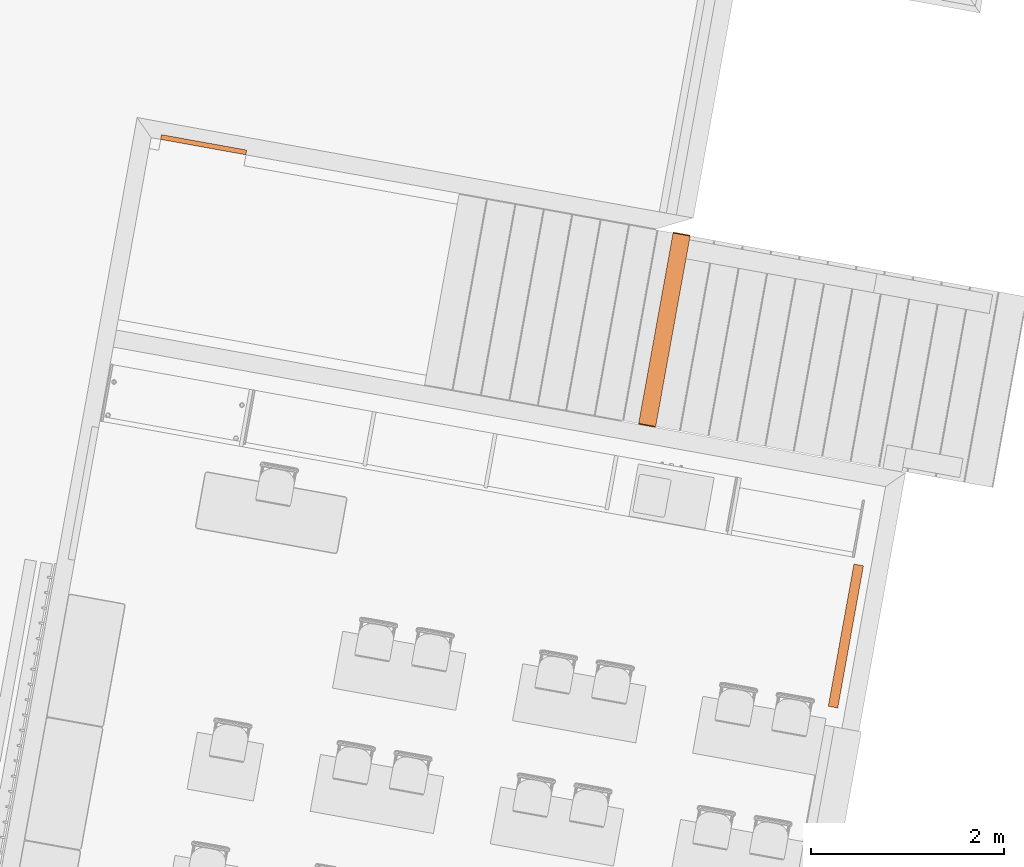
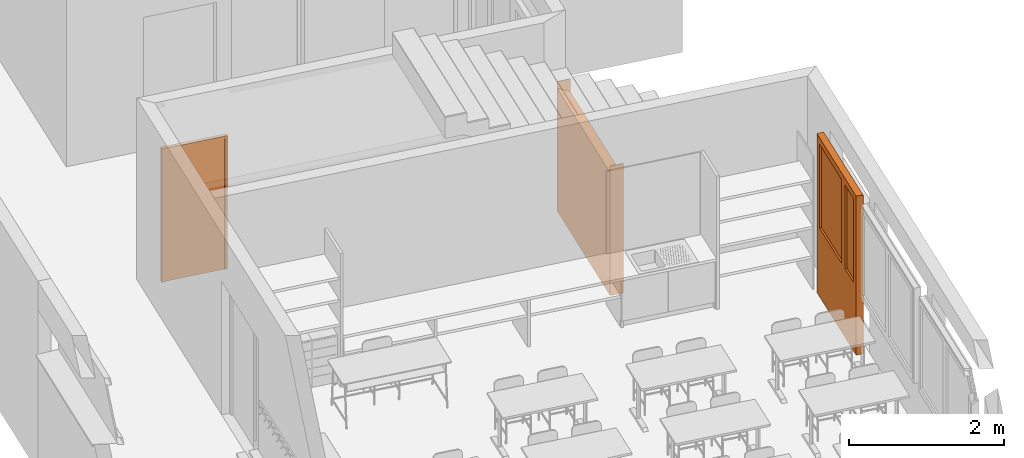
# One storey, part 58 of 79: 3 proxies.
"""IFC2X3 building model written with IfcOpenShell, lengths in metres."""

import ifcopenshell
import ifcopenshell.guid

model = None  # the IFC model being written
_history = None  # IfcOwnerHistory: only IFC2X3 demands one
_inside = {}  # id of a spatial element -> (the spatial element, [elements in it])
_under = {}  # id of a project, library or spatial element -> (it, [spatial elements below it])
_declared = {}  # id of a project -> (the project, [libraries it declares])
_typed = {}  # id of a type object -> (the type object, [elements of that type])
_made_of = {}  # id of a material, layer set ... -> (it, [elements and type objects made of it])


def new_model(schema):
    """Start an empty IFC model of exactly this schema.

    Asked for "IFC4X3", IfcOpenShell would pick the latest addendum, in which some entities
    have other attributes; the version numbers below select the first issue.
    IFC2X3 requires an IfcOwnerHistory on every rooted entity: one is made here for all.
    """
    global model, _history
    if schema == "IFC4X3":
        model = ifcopenshell.file(schema_version=(4, 3, 0, 0))
    else:
        model = ifcopenshell.file(schema=schema)
    _inside.clear()
    _under.clear()
    _declared.clear()
    _typed.clear()
    _made_of.clear()
    _history = None
    if model.schema == "IFC2X3":
        org = make("IfcOrganization", Name="unknown")
        user = make(
            "IfcPersonAndOrganization",
            ThePerson=make("IfcPerson", FamilyName="unknown"),
            TheOrganization=org,
        )
        app = make(
            "IfcApplication",
            ApplicationDeveloper=org,
            Version="unknown",
            ApplicationFullName="unknown",
            ApplicationIdentifier="unknown",
        )
        _history = make(
            "IfcOwnerHistory",
            OwningUser=user,
            OwningApplication=app,
            ChangeAction="ADDED",
            CreationDate=0,
        )
    return model


def make(cls, **values):
    """One entity of the class cls with the attributes given. An attribute that is None is left unset."""
    return model.create_entity(
        cls, **{name: value for name, value in values.items() if value is not None}
    )


def entity(cls, *values):
    """Any entity or typed value of the class cls, its attributes in the order of the schema. None: left unset."""
    e = model.create_entity(cls)
    for i, value in enumerate(values):
        if value is not None:
            e[i] = value
    return e


def rooted(cls, **values):
    """An entity with a GlobalId (a new one), such as an element, a storey or a relation."""
    return make(cls, GlobalId=ifcopenshell.guid.new(), OwnerHistory=_history, **values)


def si_unit(unit_type, name, prefix=None):
    """IfcSIUnit, for example si_unit("LENGTHUNIT", "METRE", prefix="MILLI")."""
    return make("IfcSIUnit", UnitType=unit_type, Prefix=prefix, Name=name)


def converted_unit(unit_type, name, factor, base, dimensions=None, offset=None):
    """IfcConversionBasedUnit, such as the inch: factor (a typed value) times the base unit."""
    return make(
        "IfcConversionBasedUnit"
        if offset is None
        else "IfcConversionBasedUnitWithOffset",
        ConversionOffset=offset,
        Dimensions=None
        if dimensions is None
        else entity("IfcDimensionalExponents", *dimensions),
        UnitType=unit_type,
        Name=name,
        ConversionFactor=make(
            "IfcMeasureWithUnit", ValueComponent=factor, UnitComponent=base
        ),
    )


def derived_unit(unit_type, elements):
    """IfcDerivedUnit: a product of units, each with its exponent."""
    return make(
        "IfcDerivedUnit",
        Elements=[
            make("IfcDerivedUnitElement", Unit=unit, Exponent=power)
            for unit, power in elements
        ],
        UnitType=unit_type,
    )


def money_unit(currency):
    """IfcMonetaryUnit."""
    return make("IfcMonetaryUnit", Currency=currency)


def assignment(units):
    """IfcUnitAssignment: the units of a project."""
    return None if units is None else make("IfcUnitAssignment", Units=units)


def point(xyz):
    """IfcCartesianPoint."""
    return None if xyz is None else make("IfcCartesianPoint", Coordinates=xyz)


def direction(xyz):
    """IfcDirection."""
    return None if xyz is None else make("IfcDirection", DirectionRatios=xyz)


def frame(location, z_axis=None, x_axis=None):
    """IfcAxis2Placement3D, a coordinate frame: its origin and axes. An axis left out is left unset."""
    return make(
        "IfcAxis2Placement3D",
        Location=point(location),
        Axis=direction(z_axis),
        RefDirection=direction(x_axis),
    )


def origin_with_axes():
    """The frame at (0, 0, 0) with the z axis (0, 0, 1) and the x axis (1, 0, 0) written out."""
    return frame((0.0, 0.0, 0.0), z_axis=(0.0, 0.0, 1.0), x_axis=(1.0, 0.0, 0.0))


def place(relative_to, where):
    """IfcLocalPlacement: puts the frame where relative to a parent placement (None: the world)."""
    return make(
        "IfcLocalPlacement", PlacementRelTo=relative_to, RelativePlacement=where
    )


def context(
    kind, dimensions, precision=None, world=None, true_north=None, identifier=None
):
    """IfcGeometricRepresentationContext, for example the 3D "Model" context."""
    return make(
        "IfcGeometricRepresentationContext",
        ContextIdentifier=identifier,
        ContextType=kind,
        CoordinateSpaceDimension=dimensions,
        Precision=precision,
        WorldCoordinateSystem=world,
        TrueNorth=true_north,
    )


def subcontext(parent, identifier, kind, view, scale=None):
    """IfcGeometricRepresentationSubContext, for example "Body" below "Model"."""
    return make(
        "IfcGeometricRepresentationSubContext",
        ContextIdentifier=identifier,
        ContextType=kind,
        ParentContext=parent,
        TargetScale=scale,
        TargetView=view,
    )


def project(units=None, contexts=None):
    """IfcProject with its units and contexts."""
    return rooted(
        "IfcProject",
        Name="project",
        RepresentationContexts=contexts,
        UnitsInContext=assignment(units),
    )


def spatial(cls, under=None, at=None, **own):
    """A site, building, storey or space (cls), placed at a placement, below another one or the project."""
    s = rooted(cls, ObjectPlacement=at, **own)
    if under is not None:
        _under.setdefault(under.id(), (under, []))[1].append(s)
    return s


def faces_of(points, faces, orient=None, outer=None):
    """IfcFace entities. A face is a list of loops; a loop is a list of indices into points, from 0.

    orient and outer hold one flag for each loop. By default every Orientation is true, the
    first loop of a face is its IfcFaceOuterBound and the others are IfcFaceBound.
    """
    made = []
    for i, loops in enumerate(faces):
        bounds = []
        for j, loop in enumerate(loops):
            is_outer = j == 0 if outer is None else outer[i][j]
            bounds.append(
                make(
                    "IfcFaceOuterBound" if is_outer else "IfcFaceBound",
                    Bound=make("IfcPolyLoop", Polygon=[points[k] for k in loop]),
                    Orientation=True if orient is None else orient[i][j],
                )
            )
        made.append(make("IfcFace", Bounds=bounds))
    return made


def open_shell(faces, orient=None, outer=None):
    """The faces of one IfcOpenShell. surface_model builds it on its shared points."""
    return ("IfcOpenShell", faces, orient, outer)


def faceted_brep(points, faces, orient=None, outer=None, voids=None):
    """IfcFacetedBrep: a solid bounded by flat faces; with voids (closed shells), ...WithVoids."""
    shared = [point(p) for p in points]
    hull = make("IfcClosedShell", CfsFaces=faces_of(shared, faces, orient, outer))
    if voids is None:
        return make("IfcFacetedBrep", Outer=hull)
    return make(
        "IfcFacetedBrepWithVoids",
        Outer=hull,
        Voids=[
            make(cls, CfsFaces=faces_of(shared, fs, o, b)) for cls, fs, o, b in voids
        ],
    )


def surface_model(cls, points, shells):
    """IfcFaceBasedSurfaceModel or IfcShellBasedSurfaceModel (cls): surfaces that need not close."""
    shared = [point(p) for p in points]
    made = [make(c, CfsFaces=faces_of(shared, fs, o, b)) for c, fs, o, b in shells]
    if cls == "IfcFaceBasedSurfaceModel":
        return make(cls, FbsmFaces=made)
    return make(cls, SbsmBoundary=made)


def shape(context_of_items, identifier, shape_type, items):
    """IfcShapeRepresentation: the items that make up one representation, for example the "Body"."""
    return make(
        "IfcShapeRepresentation",
        ContextOfItems=context_of_items,
        RepresentationIdentifier=identifier,
        RepresentationType=shape_type,
        Items=items,
    )


def material(Name=None, Category=None):
    """IfcMaterial."""
    return make("IfcMaterial", Name=Name, Category=Category)


def made_of(thing, what):
    """Note that an element or type object is made of a material, layer set ...; save() writes the relation."""
    if what is not None:
        _made_of.setdefault(what.id(), (what, []))[1].append(thing)
    return thing


def type_object(cls, material=None, **own):
    """A type object (cls), such as IfcWallType, which elements share."""
    return made_of(rooted(cls, **own), material)


def element(
    cls,
    number,
    at=None,
    inside=None,
    cuts=None,
    type_object=None,
    material=None,
    context=None,
    identifier="Body",
    shape_type=None,
    held_by="IfcProductDefinitionShape",
    body=None,
    shapes=None,
    **own,
):
    """One element of the class cls, such as IfcWall. Its Tag is "e" and its number.

    at: its placement. inside: the storey or other place that contains it. cuts: it is an
    opening in that element (IfcRelVoidsElement). A single representation is given by context,
    identifier, shape_type and body (its items); several are given by shapes. held_by: the class
    of the entity that holds the representations. save() writes the other relations.
    """
    e = rooted(cls, Tag="e%d" % number, ObjectPlacement=at, **own)
    if body is not None:
        shapes = [shape(context, identifier, shape_type, body)]
    if shapes is not None:
        e.Representation = make(held_by, Representations=shapes)
    if inside is not None:
        _inside.setdefault(inside.id(), (inside, []))[1].append(e)
    if cuts is not None:
        rooted(
            "IfcRelVoidsElement", RelatingBuildingElement=cuts, RelatedOpeningElement=e
        )
    if type_object is not None:
        _typed.setdefault(type_object.id(), (type_object, []))[1].append(e)
    return made_of(e, material)


def aggregate(whole, parts):
    """IfcRelAggregates: a whole, such as a stair, and the parts it consists of."""
    return rooted("IfcRelAggregates", RelatingObject=whole, RelatedObjects=parts)


def save(model, path):
    """Write the relations noted so far, then the file.

    IfcRelAggregates (storeys below a building ...), IfcRelContainedInSpatialStructure (elements
    in a storey), IfcRelDefinesByType, IfcRelAssociatesMaterial and IfcRelDeclares: one each for
    every whole, place, type object, material and project.
    """
    for whole, parts in _under.values():
        aggregate(whole, parts)
    for where, things in _inside.values():
        rooted(
            "IfcRelContainedInSpatialStructure",
            RelatedElements=things,
            RelatingStructure=where,
        )
    for kind, things in _typed.values():
        rooted("IfcRelDefinesByType", RelatedObjects=things, RelatingType=kind)
    for what, things in _made_of.values():
        rooted("IfcRelAssociatesMaterial", RelatedObjects=things, RelatingMaterial=what)
    for by, libraries in _declared.values():
        rooted("IfcRelDeclares", RelatingContext=by, RelatedDefinitions=libraries)
    model.write(path)


model = new_model("IFC2X3")

# Units and contexts
model_context = context("Model", 3, precision=1e-05, world=origin_with_axes(), true_north=direction((0.0, 1.0)))
body_context = subcontext(model_context, "Body", "Model", "MODEL_VIEW")
ifc_project = project(units=[si_unit("LENGTHUNIT", "METRE"), si_unit("AREAUNIT", "SQUARE_METRE"), si_unit("VOLUMEUNIT", "CUBIC_METRE"), converted_unit("PLANEANGLEUNIT", "DEGREE", entity("IfcPlaneAngleMeasure", 0.0174532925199), si_unit("PLANEANGLEUNIT", "RADIAN"), dimensions=[0, 0, 0, 0, 0, 0, 0]), money_unit("CHF"), converted_unit("TIMEUNIT", "Year", entity("IfcTimeMeasure", 31556926.0), si_unit("TIMEUNIT", "SECOND"), dimensions=[0, 0, 1, 0, 0, 0, 0]), si_unit("MASSUNIT", "GRAM", prefix="KILO"), si_unit("THERMODYNAMICTEMPERATUREUNIT", "DEGREE_CELSIUS"), si_unit("LUMINOUSINTENSITYUNIT", "LUMEN"), si_unit("ENERGYUNIT", "JOULE", prefix="MEGA"), derived_unit("THERMALCONDUCTANCEUNIT", [(si_unit("POWERUNIT", "WATT"), 1), (si_unit("LENGTHUNIT", "METRE"), -1), (si_unit("THERMODYNAMICTEMPERATUREUNIT", "KELVIN"), -1)]), derived_unit("SPECIFICHEATCAPACITYUNIT", [(si_unit("ENERGYUNIT", "JOULE"), 1), (si_unit("MASSUNIT", "GRAM", prefix="KILO"), -1), (si_unit("THERMODYNAMICTEMPERATUREUNIT", "KELVIN"), -1)]), derived_unit("MASSDENSITYUNIT", [(si_unit("MASSUNIT", "GRAM", prefix="KILO"), 1), (si_unit("VOLUMEUNIT", "CUBIC_METRE"), -1)])], contexts=[model_context])

# Site, building, storey
site_placement = place(None, frame((0.0, 0.0, 0.0), z_axis=(0.0, 0.0, 1.0), x_axis=(-0.177771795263, -0.984071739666, 0.0)))
site = spatial("IfcSite", under=ifc_project, at=site_placement, Name="Site", CompositionType="ELEMENT")
building_placement = place(site_placement, origin_with_axes())
building = spatial("IfcBuilding", under=site, at=building_placement, Name="Bâtiment", CompositionType="ELEMENT")
storey_placement = place(building_placement, origin_with_axes())
storey = spatial("IfcBuildingStorey", under=building, at=storey_placement, Name="RDC", CompositionType="ELEMENT", Elevation=0.0)

# Proxies
ifc_material_1 = material(Name="Matériau de construction IFC")
building_element_proxy_type_1 = type_object("IfcBuildingElementProxyType", Name="Porte 21", PredefinedType="NOTDEFINED")
proxy_1_placement = place(storey_placement, frame((144.159841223, -155.447001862, 0.0), z_axis=(0.0, 0.0, 1.0), x_axis=(0.0, -1.0, 0.0)))
element("IfcBuildingElementProxy", 1, at=proxy_1_placement, inside=storey, type_object=building_element_proxy_type_1, material=ifc_material_1, Name="33", context=body_context, shape_type="Brep", body=[
    faceted_brep([(0.05, -0.04, 0.0), (0.05, -0.04, 2.05), (0.05, -0.05, 2.05), (0.05, -0.05, 0.0), (0.038, -0.04, 2.05), (0.038, -0.04, 0.0), (0.038, 0.0, 2.05), (0.0, 0.0, 2.05), (0.0, -0.05, 2.05), (0.0, -0.05, 0.0), (0.0, 0.0, 0.0), (0.038, 0.0, 0.0)], [[[0, 1, 2, 3]], [[4, 1, 0, 5]], [[4, 6, 7, 8, 2, 1]], [[3, 2, 8, 9]], [[5, 0, 3, 9, 10, 11]], [[6, 4, 5, 11]], [[6, 11, 10, 7]], [[10, 9, 8, 7]]]),
    faceted_brep([(0.862, -0.04, 2.05), (0.85, -0.04, 2.05), (0.85, -0.05, 2.05), (0.9, -0.05, 2.05), (0.9, 0.0, 2.05), (0.862, 0.0, 2.05), (0.862, -0.04, 0.0), (0.85, -0.04, 0.0), (0.85, -0.05, 0.0), (0.9, -0.05, 0.0), (0.9, 0.0, 0.0), (0.862, 0.0, 0.0)], [[[0, 1, 2, 3, 4, 5]], [[1, 0, 6, 7]], [[1, 7, 8, 2]], [[3, 2, 8, 9]], [[4, 3, 9, 10]], [[11, 5, 4, 10]], [[0, 5, 11, 6]], [[6, 11, 10, 9, 8, 7]]]),
    faceted_brep([(0.038, 0.0, 2.062), (0.038, 0.0, 2.05), (0.0, 0.0, 2.05), (0.0, 0.0, 2.1), (0.9, 0.0, 2.1), (0.9, 0.0, 2.05), (0.862, 0.0, 2.05), (0.862, 0.0, 2.062), (0.038, -0.04, 2.062), (0.038, -0.04, 2.05), (0.05, -0.04, 2.05), (0.05, -0.05, 2.05), (0.0, -0.05, 2.05), (0.0, -0.05, 2.1), (0.9, -0.05, 2.1), (0.9, -0.05, 2.05), (0.862, -0.04, 2.05), (0.85, -0.05, 2.05), (0.85, -0.04, 2.05), (0.862, -0.04, 2.062)], [[[0, 1, 2, 3, 4, 5, 6, 7]], [[1, 0, 8, 9]], [[9, 10, 11, 12, 2, 1]], [[2, 12, 13, 3]], [[3, 13, 14, 4]], [[4, 14, 15, 5]], [[16, 6, 5, 15, 17, 18]], [[7, 6, 16, 19]], [[0, 7, 19, 8]], [[16, 18, 10, 9, 8, 19]], [[10, 18, 17, 11]], [[17, 15, 14, 13, 12, 11]]]),
    faceted_brep([(0.862, -0.00999999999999, 0.0), (0.862, -0.04, 0.0), (0.038, -0.04, 0.0), (0.038, -0.00999999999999, 0.0), (0.862, -0.00999999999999, 2.062), (0.862, -0.04, 2.062), (0.038, -0.04, 2.062), (0.038, -0.00999999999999, 2.062)], [[[0, 1, 2, 3]], [[4, 5, 1, 0]], [[1, 5, 6, 2]], [[3, 2, 6, 7]], [[0, 3, 7, 4]], [[7, 6, 5, 4]]]),
])
ifc_material_2 = material(Name="_BA banché RAL9007")
building_element_proxy_type_2 = type_object("IfcBuildingElementProxyType", Name="_M ext 18 +18 gris 360", PredefinedType="NOTDEFINED")
proxy_2_placement = place(storey_placement, frame((146.189841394, -150.757149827, -0.15), z_axis=(0.0, 0.0, 1.0), x_axis=(-1.0, 2.58455859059e-07, 0.0)))
element("IfcBuildingElementProxy", 2, at=proxy_2_placement, inside=storey, type_object=building_element_proxy_type_2, material=ifc_material_2, Name="M ext escalier", context=body_context, shape_type="Brep", body=[
    faceted_brep([(1.24314340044e-07, 0.18, 0.0), (1.24314340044e-07, 0.18, 2.03811429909), (0.00974436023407, 0.18, 2.03811429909), (0.00974436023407, 0.18, 1.93289007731), (2.01979865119, 0.18, 1.93288980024), (2.01979865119, 0.18, 2.03811429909), (2.03000012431, 0.18, 2.03811429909), (2.03000012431, 0.18, 0.0), (1.70836390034e-07, 0.0, 2.03811429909), (1.70836390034e-07, 0.0, 0.0), (0.00974440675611, 0.0, 2.03811429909), (0.00974440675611, 0.0, 1.83689007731), (2.01979869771, 0.0, 1.83688980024), (2.01979869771, 0.0, 2.03811429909), (2.03000017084, 0.0, 2.03811429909), (2.03000017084, 0.0, 0.0)], [[[0, 1, 2, 3, 4, 5, 6, 7]], [[8, 1, 0, 9]], [[1, 8, 10, 2]], [[11, 3, 2, 10]], [[12, 4, 3, 11]], [[12, 13, 5, 4]], [[6, 5, 13, 14]], [[14, 15, 7, 6]], [[9, 0, 7, 15]], [[8, 9, 15, 14, 13, 12, 11, 10]]]),
])
building_element_proxy_type_3 = type_object("IfcBuildingElementProxyType", Name="Porte double asymétrique 21", PredefinedType="NOTDEFINED")
proxy_3_placement = place(storey_placement, frame((148.719841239, -148.117150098, 0.0), z_axis=(0.0, 0.0, 1.0), x_axis=(-1.0, 0.0, 0.0)))
element("IfcBuildingElementProxy", 3, at=proxy_3_placement, inside=storey, type_object=building_element_proxy_type_3, material=ifc_material_1, Name="Porte classe", context=body_context, shape_type="SurfaceModel", body=[
    faceted_brep([(0.0, 0.285, 2.47), (0.00299999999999, 0.285, 2.47), (0.00299999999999, 0.265, 2.47), (0.0, 0.265, 2.47), (0.0, 0.285, 2.5), (0.00299999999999, 0.285, 2.5), (0.00299999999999, 0.265, 2.5), (0.0, 0.265, 2.5)], [[[0, 1, 2, 3]], [[4, 5, 1, 0]], [[1, 5, 6, 2]], [[3, 2, 6, 7]], [[0, 3, 7, 4]], [[7, 6, 5, 4]]]),
    faceted_brep([(1.497, 0.285, 2.47), (1.5, 0.285, 2.47), (1.5, 0.265, 2.47), (1.497, 0.265, 2.47), (1.497, 0.285, 2.5), (1.5, 0.285, 2.5), (1.5, 0.265, 2.5), (1.497, 0.265, 2.5)], [[[0, 1, 2, 3]], [[4, 5, 1, 0]], [[1, 5, 6, 2]], [[3, 2, 6, 7]], [[0, 3, 7, 4]], [[7, 6, 5, 4]]]),
    faceted_brep([(0.00299999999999, 0.285, 2.47), (1.497, 0.285, 2.47), (1.497, 0.282, 2.47), (0.00299999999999, 0.282, 2.47), (0.00299999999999, 0.285, 2.5), (1.497, 0.285, 2.5), (1.497, 0.265, 2.5), (1.497, 0.265, 2.47), (1.497, 0.268, 2.47), (1.497, 0.268, 2.49), (1.497, 0.26, 2.49), (1.497, 0.26, 2.47), (1.497, 0.263, 2.47), (1.497, 0.263, 2.493), (1.497, 0.268, 2.493), (1.497, 0.268, 2.497), (1.497, 0.282, 2.497), (1.497, 0.282, 2.49), (0.00299999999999, 0.282, 2.49), (0.00299999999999, 0.282, 2.497), (0.00299999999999, 0.268, 2.497), (0.00299999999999, 0.268, 2.493), (0.00299999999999, 0.263, 2.493), (0.00299999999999, 0.263, 2.47), (0.00299999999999, 0.26, 2.47), (0.00299999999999, 0.26, 2.49), (0.00299999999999, 0.268, 2.49), (0.00299999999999, 0.268, 2.47), (0.00299999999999, 0.265, 2.47), (0.00299999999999, 0.265, 2.5)], [[[0, 1, 2, 3]], [[4, 5, 1, 0]], [[1, 5, 6, 7, 8, 9, 10, 11, 12, 13, 14, 15, 16, 17, 2]], [[3, 2, 17, 18]], [[0, 3, 18, 19, 20, 21, 22, 23, 24, 25, 26, 27, 28, 29, 4]], [[29, 6, 5, 4]], [[28, 7, 6, 29]], [[27, 8, 7, 28]], [[26, 9, 8, 27]], [[25, 10, 9, 26]], [[24, 11, 10, 25]], [[23, 12, 11, 24]], [[22, 13, 12, 23]], [[21, 14, 13, 22]], [[20, 15, 14, 21]], [[19, 16, 15, 20]], [[18, 17, 16, 19]]]),
    faceted_brep([(1.5, 0.285, 0.0), (1.5, 0.285, 2.47), (1.5, 0.26, 2.47), (1.5, 0.26, 0.0), (1.475, 0.285, 0.0), (1.475, 0.285, 2.47), (1.475, 0.282, 2.47), (1.497, 0.282, 2.47), (1.497, 0.263, 2.47), (1.475, 0.263, 2.47), (1.475, 0.26, 2.47), (1.475, 0.26, 0.0), (1.475, 0.263, 0.0), (1.497, 0.263, 0.0), (1.497, 0.282, 0.0), (1.475, 0.282, 0.0)], [[[0, 1, 2, 3]], [[4, 5, 1, 0]], [[1, 5, 6, 7, 8, 9, 10, 2]], [[3, 2, 10, 11]], [[0, 3, 11, 12, 13, 14, 15, 4]], [[15, 6, 5, 4]], [[14, 7, 6, 15]], [[13, 8, 7, 14]], [[12, 9, 8, 13]], [[11, 10, 9, 12]]]),
    faceted_brep([(0.0, 0.285, 0.0), (0.0, 0.26, 0.0), (0.0, 0.26, 2.47), (0.0, 0.285, 2.47), (0.025, 0.285, 0.0), (0.025, 0.282, 0.0), (0.00299999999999, 0.282, 0.0), (0.00299999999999, 0.263, 0.0), (0.025, 0.263, 0.0), (0.025, 0.26, 0.0), (0.025, 0.26, 2.47), (0.025, 0.263, 2.47), (0.00299999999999, 0.263, 2.47), (0.00299999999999, 0.282, 2.47), (0.025, 0.282, 2.47), (0.025, 0.285, 2.47)], [[[0, 1, 2, 3]], [[0, 4, 5, 6, 7, 8, 9, 1]], [[1, 9, 10, 2]], [[3, 2, 10, 11, 12, 13, 14, 15]], [[4, 0, 3, 15]], [[5, 4, 15, 14]], [[6, 5, 14, 13]], [[7, 6, 13, 12]], [[8, 7, 12, 11]], [[9, 8, 11, 10]]]),
    faceted_brep([(1.497, 0.27375, 2.495), (1.497, 0.273333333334, 2.49333333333), (0.00299999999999, 0.273333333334, 2.49333333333), (0.00299999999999, 0.27375, 2.495), (1.497, 0.26875, 2.495), (1.497, 0.268333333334, 2.49333333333), (1.497, 0.268333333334, 2.48666666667), (1.497, 0.27, 2.48), (1.497, 0.275, 2.48), (1.497, 0.273333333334, 2.48666666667), (0.00299999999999, 0.273333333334, 2.48666666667), (0.00299999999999, 0.275, 2.48), (0.00299999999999, 0.27, 2.48), (0.00299999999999, 0.268333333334, 2.48666666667), (0.00299999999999, 0.268333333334, 2.49333333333), (0.00299999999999, 0.26875, 2.495)], [[[0, 1, 2, 3]], [[4, 5, 6, 7, 8, 9, 1, 0]], [[2, 1, 9, 10]], [[3, 2, 10, 11, 12, 13, 14, 15]], [[3, 15, 4, 0]], [[14, 5, 4, 15]], [[13, 6, 5, 14]], [[12, 7, 6, 13]], [[11, 8, 7, 12]], [[10, 9, 8, 11]]]),
    faceted_brep([(0.00299999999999, 0.275, 2.48), (1.497, 0.275, 2.48), (1.497, 0.273333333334, 2.47333333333), (0.00299999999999, 0.273333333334, 2.47333333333), (0.00299999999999, 0.27, 2.48), (1.497, 0.27, 2.48), (1.497, 0.268333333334, 2.47333333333), (1.497, 0.268333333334, 2.46666666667), (1.497, 0.27, 2.46), (1.497, 0.275, 2.46), (1.497, 0.273333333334, 2.46666666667), (0.00299999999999, 0.273333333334, 2.46666666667), (0.00299999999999, 0.275, 2.46), (0.00299999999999, 0.27, 2.46), (0.00299999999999, 0.268333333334, 2.46666666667), (0.00299999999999, 0.268333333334, 2.47333333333)], [[[0, 1, 2, 3]], [[4, 5, 1, 0]], [[1, 5, 6, 7, 8, 9, 10, 2]], [[3, 2, 10, 11]], [[0, 3, 11, 12, 13, 14, 15, 4]], [[15, 6, 5, 4]], [[14, 7, 6, 15]], [[13, 8, 7, 14]], [[12, 9, 8, 13]], [[11, 10, 9, 12]]]),
    faceted_brep([(0.00299999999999, 0.275, 2.46), (1.497, 0.275, 2.46), (1.497, 0.273333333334, 2.45333333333), (0.00299999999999, 0.273333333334, 2.45333333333), (0.00299999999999, 0.27, 2.46), (1.497, 0.27, 2.46), (1.497, 0.268333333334, 2.45333333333), (1.497, 0.268333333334, 2.44666666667), (1.497, 0.27, 2.44), (1.497, 0.275, 2.44), (1.497, 0.273333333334, 2.44666666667), (0.00299999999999, 0.273333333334, 2.44666666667), (0.00299999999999, 0.275, 2.44), (0.00299999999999, 0.27, 2.44), (0.00299999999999, 0.268333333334, 2.44666666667), (0.00299999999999, 0.268333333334, 2.45333333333)], [[[0, 1, 2, 3]], [[4, 5, 1, 0]], [[1, 5, 6, 7, 8, 9, 10, 2]], [[3, 2, 10, 11]], [[0, 3, 11, 12, 13, 14, 15, 4]], [[15, 6, 5, 4]], [[14, 7, 6, 15]], [[13, 8, 7, 14]], [[12, 9, 8, 13]], [[11, 10, 9, 12]]]),
    faceted_brep([(0.00299999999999, 0.275, 2.44), (1.497, 0.275, 2.44), (1.497, 0.273333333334, 2.43333333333), (0.00299999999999, 0.273333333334, 2.43333333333), (0.00299999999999, 0.27, 2.44), (1.497, 0.27, 2.44), (1.497, 0.268333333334, 2.43333333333), (1.497, 0.268333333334, 2.42666666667), (1.497, 0.27, 2.42), (1.497, 0.275, 2.42), (1.497, 0.273333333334, 2.42666666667), (0.00299999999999, 0.273333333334, 2.42666666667), (0.00299999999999, 0.275, 2.42), (0.00299999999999, 0.27, 2.42), (0.00299999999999, 0.268333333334, 2.42666666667), (0.00299999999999, 0.268333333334, 2.43333333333)], [[[0, 1, 2, 3]], [[4, 5, 1, 0]], [[1, 5, 6, 7, 8, 9, 10, 2]], [[3, 2, 10, 11]], [[0, 3, 11, 12, 13, 14, 15, 4]], [[15, 6, 5, 4]], [[14, 7, 6, 15]], [[13, 8, 7, 14]], [[12, 9, 8, 13]], [[11, 10, 9, 12]]]),
    faceted_brep([(0.00299999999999, 0.275, 2.42), (1.497, 0.275, 2.42), (1.497, 0.273333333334, 2.41333333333), (0.00299999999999, 0.273333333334, 2.41333333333), (0.00299999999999, 0.27, 2.42), (1.497, 0.27, 2.42), (1.497, 0.268333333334, 2.41333333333), (1.497, 0.268333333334, 2.40666666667), (1.497, 0.27, 2.4), (1.497, 0.275, 2.4), (1.497, 0.273333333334, 2.40666666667), (0.00299999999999, 0.273333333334, 2.40666666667), (0.00299999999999, 0.275, 2.4), (0.00299999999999, 0.27, 2.4), (0.00299999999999, 0.268333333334, 2.40666666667), (0.00299999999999, 0.268333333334, 2.41333333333)], [[[0, 1, 2, 3]], [[4, 5, 1, 0]], [[1, 5, 6, 7, 8, 9, 10, 2]], [[3, 2, 10, 11]], [[0, 3, 11, 12, 13, 14, 15, 4]], [[15, 6, 5, 4]], [[14, 7, 6, 15]], [[13, 8, 7, 14]], [[12, 9, 8, 13]], [[11, 10, 9, 12]]]),
    faceted_brep([(0.00299999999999, 0.275, 2.4), (1.497, 0.275, 2.4), (1.497, 0.273333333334, 2.39333333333), (0.00299999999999, 0.273333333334, 2.39333333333), (0.00299999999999, 0.27, 2.4), (1.497, 0.27, 2.4), (1.497, 0.268333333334, 2.39333333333), (1.497, 0.268333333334, 2.38666666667), (1.497, 0.27, 2.38), (1.497, 0.275, 2.38), (1.497, 0.273333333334, 2.38666666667), (0.00299999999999, 0.273333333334, 2.38666666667), (0.00299999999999, 0.275, 2.38), (0.00299999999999, 0.27, 2.38), (0.00299999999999, 0.268333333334, 2.38666666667), (0.00299999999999, 0.268333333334, 2.39333333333)], [[[0, 1, 2, 3]], [[4, 5, 1, 0]], [[1, 5, 6, 7, 8, 9, 10, 2]], [[3, 2, 10, 11]], [[0, 3, 11, 12, 13, 14, 15, 4]], [[15, 6, 5, 4]], [[14, 7, 6, 15]], [[13, 8, 7, 14]], [[12, 9, 8, 13]], [[11, 10, 9, 12]]]),
    faceted_brep([(0.00299999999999, 0.275, 2.38), (1.497, 0.275, 2.38), (1.497, 0.273333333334, 2.37333333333), (0.00299999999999, 0.273333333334, 2.37333333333), (0.00299999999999, 0.27, 2.38), (1.497, 0.27, 2.38), (1.497, 0.268333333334, 2.37333333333), (1.497, 0.268333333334, 2.36666666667), (1.497, 0.27, 2.36), (1.497, 0.275, 2.36), (1.497, 0.273333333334, 2.36666666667), (0.00299999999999, 0.273333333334, 2.36666666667), (0.00299999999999, 0.275, 2.36), (0.00299999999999, 0.27, 2.36), (0.00299999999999, 0.268333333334, 2.36666666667), (0.00299999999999, 0.268333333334, 2.37333333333)], [[[0, 1, 2, 3]], [[4, 5, 1, 0]], [[1, 5, 6, 7, 8, 9, 10, 2]], [[3, 2, 10, 11]], [[0, 3, 11, 12, 13, 14, 15, 4]], [[15, 6, 5, 4]], [[14, 7, 6, 15]], [[13, 8, 7, 14]], [[12, 9, 8, 13]], [[11, 10, 9, 12]]]),
    faceted_brep([(0.00299999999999, 0.275, 2.36), (1.497, 0.275, 2.36), (1.497, 0.273333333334, 2.35333333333), (0.00299999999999, 0.273333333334, 2.35333333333), (0.00299999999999, 0.27, 2.36), (1.497, 0.27, 2.36), (1.497, 0.268333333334, 2.35333333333), (1.497, 0.268333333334, 2.34666666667), (1.497, 0.27, 2.34), (1.497, 0.275, 2.34), (1.497, 0.273333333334, 2.34666666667), (0.00299999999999, 0.273333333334, 2.34666666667), (0.00299999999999, 0.275, 2.34), (0.00299999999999, 0.27, 2.34), (0.00299999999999, 0.268333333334, 2.34666666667), (0.00299999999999, 0.268333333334, 2.35333333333)], [[[0, 1, 2, 3]], [[4, 5, 1, 0]], [[1, 5, 6, 7, 8, 9, 10, 2]], [[3, 2, 10, 11]], [[0, 3, 11, 12, 13, 14, 15, 4]], [[15, 6, 5, 4]], [[14, 7, 6, 15]], [[13, 8, 7, 14]], [[12, 9, 8, 13]], [[11, 10, 9, 12]]]),
    faceted_brep([(0.00299999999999, 0.275, 2.34), (1.497, 0.275, 2.34), (1.497, 0.273333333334, 2.33333333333), (0.00299999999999, 0.273333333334, 2.33333333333), (0.00299999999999, 0.27, 2.34), (1.497, 0.27, 2.34), (1.497, 0.268333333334, 2.33333333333), (1.497, 0.268333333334, 2.32666666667), (1.497, 0.27, 2.32), (1.497, 0.275, 2.32), (1.497, 0.273333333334, 2.32666666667), (0.00299999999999, 0.273333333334, 2.32666666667), (0.00299999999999, 0.275, 2.32), (0.00299999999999, 0.27, 2.32), (0.00299999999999, 0.268333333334, 2.32666666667), (0.00299999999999, 0.268333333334, 2.33333333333)], [[[0, 1, 2, 3]], [[4, 5, 1, 0]], [[1, 5, 6, 7, 8, 9, 10, 2]], [[3, 2, 10, 11]], [[0, 3, 11, 12, 13, 14, 15, 4]], [[15, 6, 5, 4]], [[14, 7, 6, 15]], [[13, 8, 7, 14]], [[12, 9, 8, 13]], [[11, 10, 9, 12]]]),
    faceted_brep([(0.00299999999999, 0.275, 2.32), (1.497, 0.275, 2.32), (1.497, 0.273333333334, 2.31333333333), (0.00299999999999, 0.273333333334, 2.31333333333), (0.00299999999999, 0.27, 2.32), (1.497, 0.27, 2.32), (1.497, 0.268333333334, 2.31333333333), (1.497, 0.268333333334, 2.30666666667), (1.497, 0.27, 2.3), (1.497, 0.275, 2.3), (1.497, 0.273333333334, 2.30666666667), (0.00299999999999, 0.273333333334, 2.30666666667), (0.00299999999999, 0.275, 2.3), (0.00299999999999, 0.27, 2.3), (0.00299999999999, 0.268333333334, 2.30666666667), (0.00299999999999, 0.268333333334, 2.31333333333)], [[[0, 1, 2, 3]], [[4, 5, 1, 0]], [[1, 5, 6, 7, 8, 9, 10, 2]], [[3, 2, 10, 11]], [[0, 3, 11, 12, 13, 14, 15, 4]], [[15, 6, 5, 4]], [[14, 7, 6, 15]], [[13, 8, 7, 14]], [[12, 9, 8, 13]], [[11, 10, 9, 12]]]),
    faceted_brep([(0.00299999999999, 0.275, 2.3), (1.497, 0.275, 2.3), (1.497, 0.273333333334, 2.29333333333), (0.00299999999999, 0.273333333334, 2.29333333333), (0.00299999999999, 0.27, 2.3), (1.497, 0.27, 2.3), (1.497, 0.268333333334, 2.29333333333), (1.497, 0.268333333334, 2.28666666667), (1.497, 0.27, 2.28), (1.497, 0.275, 2.28), (1.497, 0.273333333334, 2.28666666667), (0.00299999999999, 0.273333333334, 2.28666666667), (0.00299999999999, 0.275, 2.28), (0.00299999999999, 0.27, 2.28), (0.00299999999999, 0.268333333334, 2.28666666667), (0.00299999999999, 0.268333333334, 2.29333333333)], [[[0, 1, 2, 3]], [[4, 5, 1, 0]], [[1, 5, 6, 7, 8, 9, 10, 2]], [[3, 2, 10, 11]], [[0, 3, 11, 12, 13, 14, 15, 4]], [[15, 6, 5, 4]], [[14, 7, 6, 15]], [[13, 8, 7, 14]], [[12, 9, 8, 13]], [[11, 10, 9, 12]]]),
    faceted_brep([(0.00299999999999, 0.275, 2.28), (1.497, 0.275, 2.28), (1.497, 0.273333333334, 2.27333333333), (0.00299999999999, 0.273333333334, 2.27333333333), (0.00299999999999, 0.27, 2.28), (1.497, 0.27, 2.28), (1.497, 0.268333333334, 2.27333333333), (1.497, 0.268333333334, 2.26666666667), (1.497, 0.27, 2.26), (1.497, 0.275, 2.26), (1.497, 0.273333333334, 2.26666666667), (0.00299999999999, 0.273333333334, 2.26666666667), (0.00299999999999, 0.275, 2.26), (0.00299999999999, 0.27, 2.26), (0.00299999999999, 0.268333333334, 2.26666666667), (0.00299999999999, 0.268333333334, 2.27333333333)], [[[0, 1, 2, 3]], [[4, 5, 1, 0]], [[1, 5, 6, 7, 8, 9, 10, 2]], [[3, 2, 10, 11]], [[0, 3, 11, 12, 13, 14, 15, 4]], [[15, 6, 5, 4]], [[14, 7, 6, 15]], [[13, 8, 7, 14]], [[12, 9, 8, 13]], [[11, 10, 9, 12]]]),
    faceted_brep([(0.00299999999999, 0.275, 2.26), (1.497, 0.275, 2.26), (1.497, 0.273333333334, 2.25333333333), (0.00299999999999, 0.273333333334, 2.25333333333), (0.00299999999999, 0.27, 2.26), (1.497, 0.27, 2.26), (1.497, 0.268333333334, 2.25333333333), (1.497, 0.268333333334, 2.24666666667), (1.497, 0.27, 2.24), (1.497, 0.275, 2.24), (1.497, 0.273333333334, 2.24666666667), (0.00299999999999, 0.273333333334, 2.24666666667), (0.00299999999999, 0.275, 2.24), (0.00299999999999, 0.27, 2.24), (0.00299999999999, 0.268333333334, 2.24666666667), (0.00299999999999, 0.268333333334, 2.25333333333)], [[[0, 1, 2, 3]], [[4, 5, 1, 0]], [[1, 5, 6, 7, 8, 9, 10, 2]], [[3, 2, 10, 11]], [[0, 3, 11, 12, 13, 14, 15, 4]], [[15, 6, 5, 4]], [[14, 7, 6, 15]], [[13, 8, 7, 14]], [[12, 9, 8, 13]], [[11, 10, 9, 12]]]),
    faceted_brep([(0.00299999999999, 0.275, 2.24), (1.497, 0.275, 2.24), (1.497, 0.273333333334, 2.23333333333), (0.00299999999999, 0.273333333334, 2.23333333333), (0.00299999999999, 0.27, 2.24), (1.497, 0.27, 2.24), (1.497, 0.268333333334, 2.23333333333), (1.497, 0.268333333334, 2.22666666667), (1.497, 0.27, 2.22), (1.497, 0.275, 2.22), (1.497, 0.273333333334, 2.22666666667), (0.00299999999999, 0.273333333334, 2.22666666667), (0.00299999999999, 0.275, 2.22), (0.00299999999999, 0.27, 2.22), (0.00299999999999, 0.268333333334, 2.22666666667), (0.00299999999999, 0.268333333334, 2.23333333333)], [[[0, 1, 2, 3]], [[4, 5, 1, 0]], [[1, 5, 6, 7, 8, 9, 10, 2]], [[3, 2, 10, 11]], [[0, 3, 11, 12, 13, 14, 15, 4]], [[15, 6, 5, 4]], [[14, 7, 6, 15]], [[13, 8, 7, 14]], [[12, 9, 8, 13]], [[11, 10, 9, 12]]]),
    faceted_brep([(0.00299999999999, 0.275, 2.22), (1.497, 0.275, 2.22), (1.497, 0.273333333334, 2.21333333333), (0.00299999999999, 0.273333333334, 2.21333333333), (0.00299999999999, 0.27, 2.22), (1.497, 0.27, 2.22), (1.497, 0.268333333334, 2.21333333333), (1.497, 0.268333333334, 2.20666666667), (1.497, 0.27, 2.2), (1.497, 0.275, 2.2), (1.497, 0.273333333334, 2.20666666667), (0.00299999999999, 0.273333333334, 2.20666666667), (0.00299999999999, 0.275, 2.2), (0.00299999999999, 0.27, 2.2), (0.00299999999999, 0.268333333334, 2.20666666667), (0.00299999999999, 0.268333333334, 2.21333333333)], [[[0, 1, 2, 3]], [[4, 5, 1, 0]], [[1, 5, 6, 7, 8, 9, 10, 2]], [[3, 2, 10, 11]], [[0, 3, 11, 12, 13, 14, 15, 4]], [[15, 6, 5, 4]], [[14, 7, 6, 15]], [[13, 8, 7, 14]], [[12, 9, 8, 13]], [[11, 10, 9, 12]]]),
    faceted_brep([(0.0, 0.36, 0.0), (0.03, 0.36, 0.0), (0.03, 0.285, 0.0), (0.0, 0.285, 0.0), (0.0, 0.36, 2.47), (0.03, 0.36, 2.47), (0.03, 0.285, 2.47), (0.0, 0.285, 2.47)], [[[0, 1, 2, 3]], [[0, 4, 5, 1]], [[1, 5, 6, 2]], [[3, 2, 6, 7]], [[4, 0, 3, 7]], [[5, 4, 7, 6]]]),
    faceted_brep([(1.5, 0.36, 0.0), (1.5, 0.36, 2.47), (1.5, 0.285, 2.47), (1.5, 0.285, 0.0), (1.47, 0.36, 0.0), (1.47, 0.36, 2.47), (1.47, 0.285, 2.47), (1.47, 0.285, 0.0)], [[[0, 1, 2, 3]], [[0, 4, 5, 1]], [[1, 5, 6, 2]], [[3, 2, 6, 7]], [[4, 0, 3, 7]], [[5, 4, 7, 6]]]),
    faceted_brep([(0.0, 0.36, 2.5), (0.0, 0.36, 2.47), (0.0, 0.285, 2.47), (0.0, 0.285, 2.5), (1.5, 0.36, 2.5), (1.5, 0.36, 2.47), (1.47, 0.36, 2.47), (0.03, 0.36, 2.47), (0.03, 0.285, 2.47), (1.47, 0.285, 2.47), (1.5, 0.285, 2.47), (1.5, 0.285, 2.5)], [[[0, 1, 2, 3]], [[0, 4, 5, 6, 7, 1]], [[1, 7, 8, 2]], [[3, 2, 8, 9, 10, 11]], [[4, 0, 3, 11]], [[5, 4, 11, 10]], [[6, 5, 10, 9]], [[7, 6, 9, 8]]]),
    faceted_brep([(1.47, 0.36, 1.08), (1.47, 0.285, 1.08), (1.4, 0.285, 1.08), (1.4, 0.36, 1.08), (1.47, 0.36, 2.4), (1.47, 0.285, 2.4), (1.4, 0.285, 2.4), (1.4, 0.36, 2.4)], [[[0, 1, 2, 3]], [[4, 5, 1, 0]], [[1, 5, 6, 2]], [[3, 2, 6, 7]], [[0, 3, 7, 4]], [[7, 6, 5, 4]]]),
    faceted_brep([(0.49, 0.36, 1.08), (0.49, 0.285, 1.08), (0.49, 0.285, 2.4), (0.49, 0.36, 2.4), (0.56, 0.36, 1.08), (0.56, 0.285, 1.08), (0.56, 0.285, 2.4), (0.56, 0.36, 2.4)], [[[0, 1, 2, 3]], [[4, 5, 1, 0]], [[1, 5, 6, 2]], [[3, 2, 6, 7]], [[0, 3, 7, 4]], [[7, 6, 5, 4]]]),
    faceted_brep([(1.47, 0.36, 0.0), (1.47, 0.285, 0.0), (0.49, 0.285, 0.0), (0.49, 0.36, 0.0), (1.47, 0.36, 1.08), (1.47, 0.285, 1.08), (1.4, 0.285, 1.08), (0.56, 0.285, 1.08), (0.49, 0.285, 1.08), (0.49, 0.36, 1.08), (0.56, 0.36, 1.08), (1.4, 0.36, 1.08)], [[[0, 1, 2, 3]], [[4, 5, 1, 0]], [[1, 5, 6, 7, 8, 2]], [[3, 2, 8, 9]], [[0, 3, 9, 10, 11, 4]], [[11, 6, 5, 4]], [[10, 7, 6, 11]], [[9, 8, 7, 10]]]),
    faceted_brep([(1.47, 0.36, 2.47), (1.47, 0.285, 2.47), (1.47, 0.285, 2.4), (1.47, 0.36, 2.4), (0.49, 0.36, 2.47), (0.49, 0.285, 2.47), (0.49, 0.285, 2.4), (0.56, 0.285, 2.4), (1.4, 0.285, 2.4), (1.4, 0.36, 2.4), (0.56, 0.36, 2.4), (0.49, 0.36, 2.4)], [[[0, 1, 2, 3]], [[4, 5, 1, 0]], [[1, 5, 6, 7, 8, 2]], [[3, 2, 8, 9]], [[0, 3, 9, 10, 11, 4]], [[11, 6, 5, 4]], [[10, 7, 6, 11]], [[9, 8, 7, 10]]]),
    surface_model("IfcShellBasedSurfaceModel", [(1.4, 0.3325, 1.08), (0.56, 0.3325, 1.08), (0.56, 0.3325, 2.4), (1.4, 0.3325, 2.4)], [open_shell([[[0, 1, 2, 3]]])]),
    surface_model("IfcShellBasedSurfaceModel", [(1.4, 0.3125, 1.08), (1.4, 0.3125, 2.4), (0.56, 0.3125, 2.4), (0.56, 0.3125, 1.08)], [open_shell([[[0, 1, 2, 3]]])]),
    faceted_brep([(0.03, 0.36, 1.08), (0.1, 0.36, 1.08), (0.1, 0.285, 1.08), (0.03, 0.285, 1.08), (0.03, 0.36, 2.4), (0.1, 0.36, 2.4), (0.1, 0.285, 2.4), (0.03, 0.285, 2.4)], [[[0, 1, 2, 3]], [[0, 4, 5, 1]], [[1, 5, 6, 2]], [[3, 2, 6, 7]], [[4, 0, 3, 7]], [[5, 4, 7, 6]]]),
    faceted_brep([(0.49, 0.36, 1.08), (0.49, 0.36, 2.4), (0.49, 0.285, 2.4), (0.49, 0.285, 1.08), (0.42, 0.36, 1.08), (0.42, 0.36, 2.4), (0.42, 0.285, 2.4), (0.42, 0.285, 1.08)], [[[0, 1, 2, 3]], [[0, 4, 5, 1]], [[1, 5, 6, 2]], [[3, 2, 6, 7]], [[4, 0, 3, 7]], [[5, 4, 7, 6]]]),
    faceted_brep([(0.03, 0.36, 0.0), (0.49, 0.36, 0.0), (0.49, 0.285, 0.0), (0.03, 0.285, 0.0), (0.03, 0.36, 1.08), (0.1, 0.36, 1.08), (0.42, 0.36, 1.08), (0.49, 0.36, 1.08), (0.49, 0.285, 1.08), (0.42, 0.285, 1.08), (0.1, 0.285, 1.08), (0.03, 0.285, 1.08)], [[[0, 1, 2, 3]], [[0, 4, 5, 6, 7, 1]], [[1, 7, 8, 2]], [[3, 2, 8, 9, 10, 11]], [[4, 0, 3, 11]], [[5, 4, 11, 10]], [[6, 5, 10, 9]], [[7, 6, 9, 8]]]),
    faceted_brep([(0.03, 0.36, 2.47), (0.03, 0.36, 2.4), (0.03, 0.285, 2.4), (0.03, 0.285, 2.47), (0.49, 0.36, 2.47), (0.49, 0.36, 2.4), (0.42, 0.36, 2.4), (0.1, 0.36, 2.4), (0.1, 0.285, 2.4), (0.42, 0.285, 2.4), (0.49, 0.285, 2.4), (0.49, 0.285, 2.47)], [[[0, 1, 2, 3]], [[0, 4, 5, 6, 7, 1]], [[1, 7, 8, 2]], [[3, 2, 8, 9, 10, 11]], [[4, 0, 3, 11]], [[5, 4, 11, 10]], [[6, 5, 10, 9]], [[7, 6, 9, 8]]]),
    surface_model("IfcShellBasedSurfaceModel", [(0.1, 0.3325, 1.08), (0.1, 0.3325, 2.4), (0.42, 0.3325, 2.4), (0.42, 0.3325, 1.08)], [open_shell([[[0, 1, 2, 3]]])]),
    surface_model("IfcShellBasedSurfaceModel", [(0.1, 0.3125, 1.08), (0.42, 0.3125, 1.08), (0.42, 0.3125, 2.4), (0.1, 0.3125, 2.4)], [open_shell([[[0, 1, 2, 3]]])]),
])

save(model, "model.ifc")
